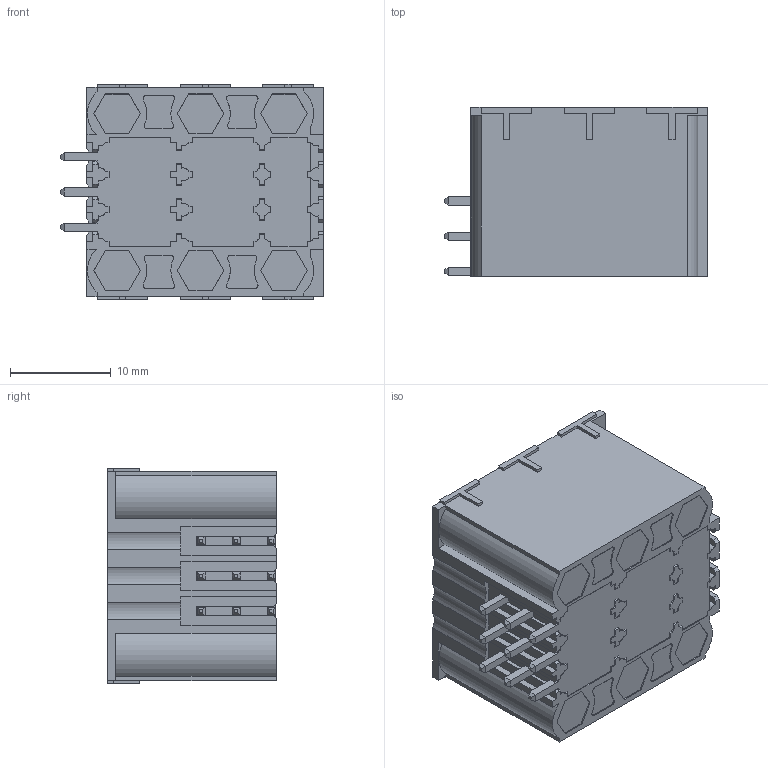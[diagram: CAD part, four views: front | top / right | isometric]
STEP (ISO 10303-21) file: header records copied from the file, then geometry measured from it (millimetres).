
FILE_DESCRIPTION((''),'2;1');
FILE_NAME('3PIN_SW0001','2019-06-10T',('zhenbing.lai'),(''),'CREO PARAMETRIC BY PTC INC, 2016260','CREO PARAMETRIC BY PTC INC, 2016260','');
FILE_SCHEMA(('CONFIG_CONTROL_DESIGN'));
Products named in the file (1): 3PIN_SW0001
Bounding box: 26.1 x 16.8 x 21.4 mm (x, y, z)
Volume: 6560.3 mm3; surface area: 5218.4 mm2
Topology: 1 solids, 5 shells, 1145 faces, 3149 edges, 2070 vertices
Faces by surface type: plane 880, cylinder 196, bspline 36, cone 33
Entity records: 57109 total; most frequent: CARTESIAN_POINT 28335, ORIENTED_EDGE 6298, DIRECTION 5392, EDGE_CURVE 3149, VECTOR 2548, LINE 2548, VERTEX_POINT 2070, AXIS2_PLACEMENT_3D 1422
